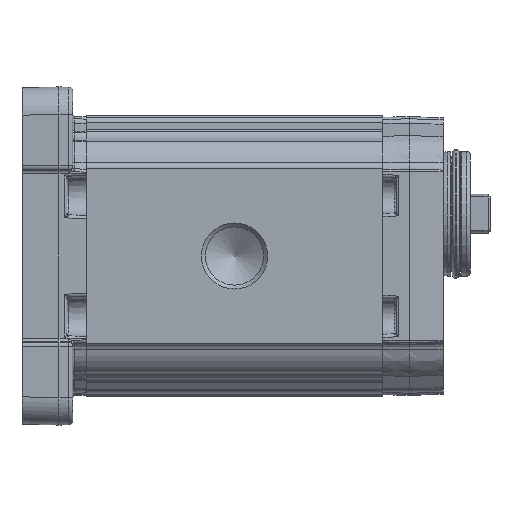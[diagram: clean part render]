
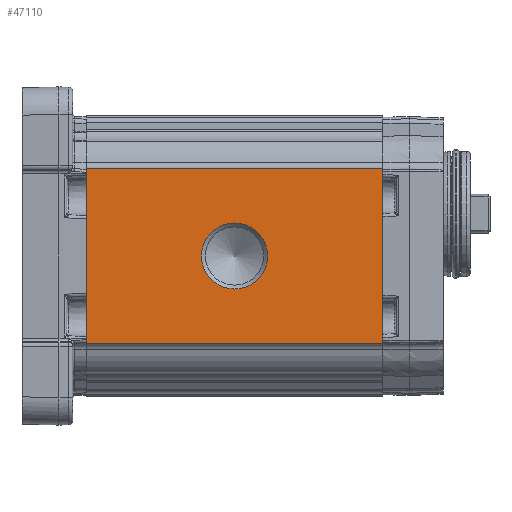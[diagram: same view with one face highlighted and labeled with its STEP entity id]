
A CAD part, left-side view. The second image highlights one B-rep face of the part: STEP entity #47110.
In plain terms, the highlighted planar face has unit normal (-1, 0, 0) as drawn and (1, 0, 0) by its records, which use the part's own axes.
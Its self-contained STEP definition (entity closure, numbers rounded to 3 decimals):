
#3135=LINE('',#86859,#4534);
#3137=LINE('',#86888,#4536);
#3162=LINE('',#86976,#4561);
#3163=LINE('',#86978,#4562);
#4534=VECTOR('',#56623,1000.);
#4536=VECTOR('',#56651,1000.);
#4561=VECTOR('',#56744,1000.);
#4562=VECTOR('',#56747,1000.);
#5534=PLANE('',#50147);
#10133=ORIENTED_EDGE('',*,*,#17802,.T.);
#10134=ORIENTED_EDGE('',*,*,#17792,.T.);
#10135=ORIENTED_EDGE('',*,*,#17744,.T.);
#10136=ORIENTED_EDGE('',*,*,#17793,.T.);
#10137=ORIENTED_EDGE('',*,*,#17730,.F.);
#17730=EDGE_CURVE('',#21832,#21833,#3135,.T.);
#17744=EDGE_CURVE('',#21847,#21846,#3137,.T.);
#17792=EDGE_CURVE('',#21832,#21847,#3162,.T.);
#17793=EDGE_CURVE('',#21846,#21833,#3163,.F.);
#17802=EDGE_CURVE('',#21876,#21876,#24500,.F.);
#21832=VERTEX_POINT('',#86858);
#21833=VERTEX_POINT('',#86860);
#21846=VERTEX_POINT('',#86887);
#21847=VERTEX_POINT('',#86889);
#21876=VERTEX_POINT('',#87004);
#24500=CIRCLE('',#50148,8.475);
#26757=EDGE_LOOP('',(#10133));
#26758=EDGE_LOOP('',(#10134,#10135,#10136,#10137));
#29185=FACE_BOUND('',#26757,.T.);
#29186=FACE_BOUND('',#26758,.T.);
#47110=ADVANCED_FACE('',(#29185,#29186),#5534,.T.);
#50147=AXIS2_PLACEMENT_3D('',#87002,#56786,#56787);
#50148=AXIS2_PLACEMENT_3D('',#87003,#56788,#56789);
#56623=DIRECTION('',(0.,0.,-1.));
#56651=DIRECTION('',(0.,0.,-1.));
#56744=DIRECTION('',(0.,-1.,0.));
#56747=DIRECTION('',(0.,-1.,0.));
#56786=DIRECTION('',(1.,0.,0.));
#56787=DIRECTION('',(0.,0.,-1.));
#56788=DIRECTION('',(1.,0.,0.));
#56789=DIRECTION('',(0.,0.,-1.));
#86858=CARTESIAN_POINT('',(33.,76.,22.5));
#86859=CARTESIAN_POINT('',(33.,76.,-21.711));
#86860=CARTESIAN_POINT('',(33.,76.,-22.5));
#86887=CARTESIAN_POINT('',(33.,0.,-22.5));
#86888=CARTESIAN_POINT('',(33.,0.,-21.711));
#86889=CARTESIAN_POINT('',(33.,0.,22.5));
#86976=CARTESIAN_POINT('',(33.,76.,22.5));
#86978=CARTESIAN_POINT('',(33.,76.,-22.5));
#87002=CARTESIAN_POINT('',(33.,140.14,-45.494));
#87003=CARTESIAN_POINT('',(33.,38.,0.));
#87004=CARTESIAN_POINT('',(33.,38.,-8.475));
